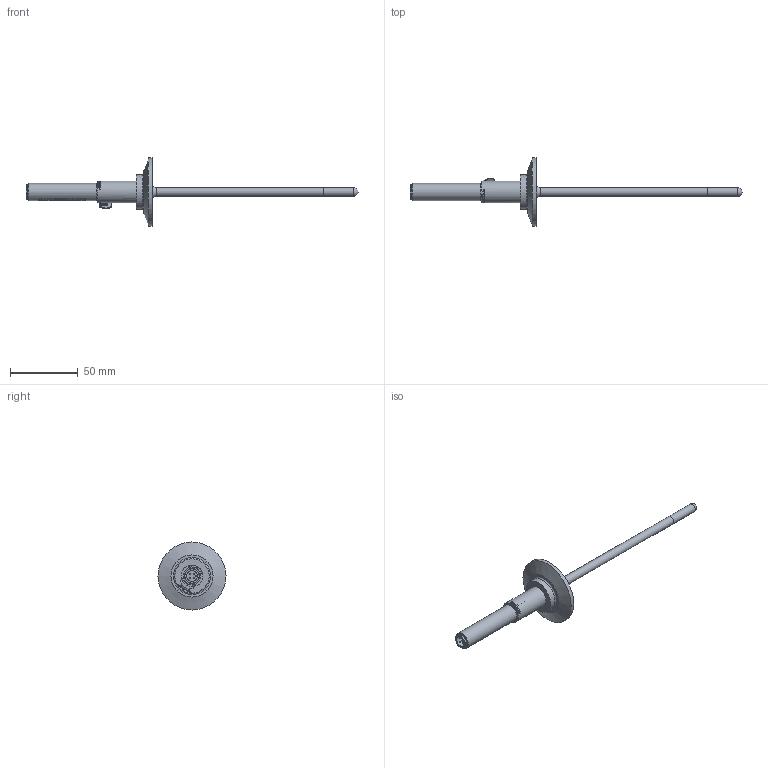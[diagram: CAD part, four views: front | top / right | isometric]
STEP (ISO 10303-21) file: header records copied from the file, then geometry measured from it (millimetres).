
FILE_DESCRIPTION(/* description */ (''),/* implementation_level */ '2;1');
FILE_NAME(/* name */ 'P:\3D Drawings\ReoClick-M12\ReoClick-M12-STP\ReoClick-M12-STP.stp',/* time_stamp */ '2015-11-11T13:13:41-08:00',/* author */ ('charles'),/* organization */ (''),/* preprocessor_version */ 'ST-DEVELOPER v15.2',/* originating_system */ 'Autodesk Inventor 2014',/* authorisation */ '');
FILE_SCHEMA (('AUTOMOTIVE_DESIGN { 1 0 10303 214 3 1 1 }'));
Length unit declared in the file: inch
Products named in the file (1): ReoClick-M12
Bounding box: 245.92 x 50.39 x 50.39 mm (x, y, z)
Volume: 22198.8 mm3; surface area: 18045.3 mm2
Topology: 1 solids, 3 shells, 370 faces, 949 edges, 631 vertices
Faces by surface type: plane 196, bspline 89, cylinder 67, torus 7, cone 6, sphere 5
Full cylindrical faces by diameter (mm): 1.016 x4, 1.27 x1, 2.159 x1, 2.286 x2, 2.921 x2, 4.026 x1, 4.699 x1, 4.775 x1, 5.207 x1, 5.588 x1, 6.02 x1, 6.35 x1, 7.874 x3, 8.001 x1, 8.026 x1, 9.576 x1, 10.414 x1, 11.836 x1, 12.7 x1, 15.875 x1, 25.4 x1, 50.394 x1
Entity records: 34427 total; most frequent: CARTESIAN_POINT 26087, ORIENTED_EDGE 1766, DIRECTION 1325, EDGE_CURVE 882, VERTEX_POINT 611, AXIS2_PLACEMENT_3D 470, EDGE_LOOP 468, LINE 385
